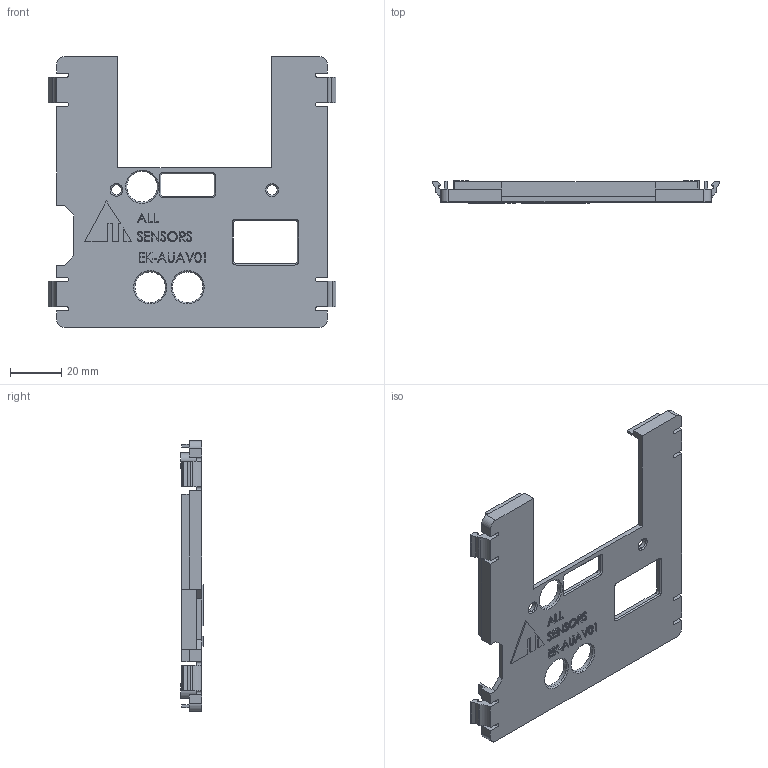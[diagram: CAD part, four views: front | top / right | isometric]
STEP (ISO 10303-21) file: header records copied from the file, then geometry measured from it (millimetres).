
FILE_DESCRIPTION (( 'STEP AP203' ), '1' );
FILE_NAME ('AS07-01-258-004A PCB TOP CASE_EK_AUAV01.STEP', '2024-08-23T16:24:16', ( '' ), ( '' ), 'SwSTEP 2.0', 'SolidWorks 2023', '' );
FILE_SCHEMA (( 'CONFIG_CONTROL_DESIGN' ));
Length unit declared in the file: millimetre
Products named in the file (1): AS07-01-258-004A PCB TOP CASE_EK_AUAV01
Bounding box: 112.62 x 8.8 x 106 mm (x, y, z)
Volume: 19196.3 mm3; surface area: 21193.1 mm2
Topology: 1 solids, 1 shells, 442 faces, 1197 edges, 788 vertices
Faces by surface type: plane 288, bspline 74, cylinder 62, cone 18
Entity records: 17764 total; most frequent: CARTESIAN_POINT 6902, ORIENTED_EDGE 2394, DIRECTION 1929, EDGE_CURVE 1197, VECTOR 907, LINE 907, VERTEX_POINT 788, AXIS2_PLACEMENT_3D 511
